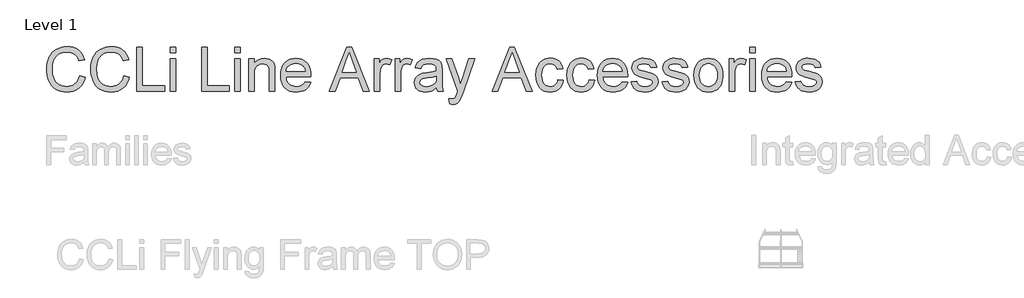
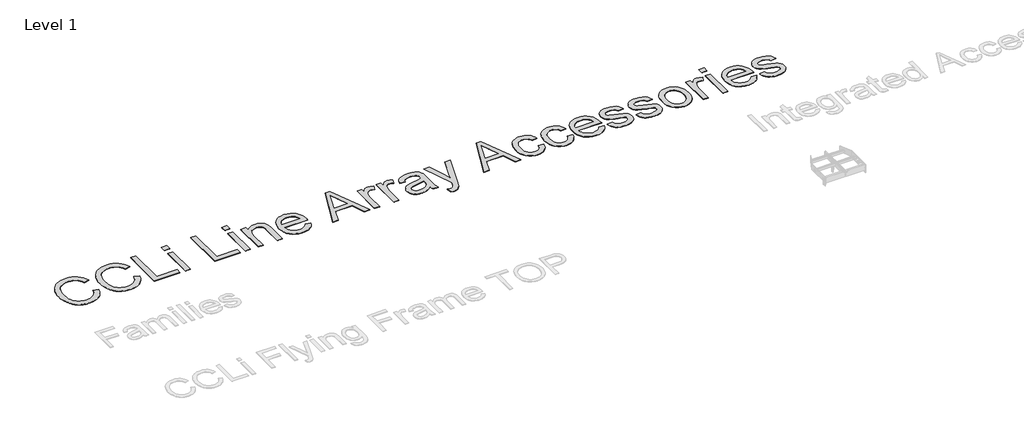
# One storey, part 13 of 31: 1 proxy.
"""IFC4 building model written with IfcOpenShell, lengths in millimetres."""

from ifc_helpers import new_model, si_unit, origin, origin_with_axes, place, context, project, spatial, polyline, outline, extrude, element, save

model = new_model("IFC4")

# Units and contexts
model_context = context("Model", 3, world=origin())
ifc_project = project(units=[si_unit("LENGTHUNIT", "METRE", prefix="MILLI")], contexts=[model_context])

# Site, building, storey
site = spatial("IfcSite", under=ifc_project)
building = spatial("IfcBuilding", under=site)
storey = spatial("IfcBuildingStorey", under=building, Name="Level 1", Elevation=0.0)

# Proxy
placement = place(None, origin())
element("IfcBuildingElementProxy", 1, Name="600mm Arial", ObjectType="600mm Arial", at=placement, inside=storey, context=model_context, shape_type="SweptSolid", body=[
    extrude(outline(polyline([(2002.9783305, -12457.1212893), (2078.3205631, -12476.5454586), (2063.4121452, -12523.3998292), (2043.5557146, -12564.3404968), (2018.751271, -12599.3674613), (1988.9988147, -12628.4807226), (1954.9697301, -12651.3675813), (1917.335402, -12667.7153374), (1876.0958304, -12677.5239911), (1831.2510151, -12680.7935424), (1785.3071525, -12678.3195359), (1743.8606472, -12670.8975167), (1706.9114993, -12658.5274846), (1674.4597088, -12641.2094397), (1646.0592188, -12619.2008993), (1621.2639723, -12592.7593809), (1600.0739694, -12561.8848845), (1582.48921, -12526.57741), (1568.6798396, -12488.3636677), (1558.8160036, -12448.770368), (1552.897702, -12407.7975108), (1550.9249348, -12365.4450961), (1553.1552194, -12320.0024726), (1559.8460732, -12277.5580874), (1570.9974962, -12238.1119405), (1586.6094884, -12201.6640318), (1606.3325618, -12168.8167682), (1629.8172287, -12140.1725563), (1657.063489, -12115.7313963), (1688.0713426, -12095.493288), (1721.7877275, -12079.6237785), (1757.1595813, -12068.2884145), (1794.1869041, -12061.4871961), (1832.8696959, -12059.2201233), (1875.9624731, -12062.1539822), (1915.4775979, -12070.955559), (1951.4150703, -12085.6248535), (1983.7748903, -12106.1618659), (2012.023629, -12132.0239702), (2035.6278576, -12162.6685404), (2054.5875759, -12198.0955765), (2068.902784, -12238.3050786), (1993.5605514, -12256.2577199), (1981.6963571, -12226.6294237), (1967.4409298, -12201.3145439), (1950.7942695, -12180.3130805), (1931.7563762, -12163.6250335), (1910.2168854, -12150.9101121), (1886.0654324, -12141.8280253), (1859.3020173, -12136.3787733), (1829.92664, -12134.5623559), (1796.1274817, -12136.5765098), (1765.216197, -12142.6189716), (1737.192786, -12152.6897412), (1712.0572487, -12166.7888187), (1690.1268833, -12184.2816076), (1671.7189879, -12204.5335114), (1656.8335627, -12227.5445302), (1645.4706076, -12253.314664), (1631.0680275, -12308.460175), (1626.2671674, -12365.2979433), (1631.9509443, -12434.9012168), (1639.0556653, -12466.1711864), (1649.0022747, -12495.0867112), (1661.951721, -12521.0729756), (1678.0649524, -12543.5551641), (1697.3419689, -12562.5332765), (1719.7827706, -12578.0073129), (1744.2975071, -12590.0140615), (1769.7963278, -12598.5903105), (1796.279233, -12603.7360599), (1823.7462224, -12605.4513097), (1856.5015156, -12603.1152591), (1886.6356495, -12596.1071071), (1914.1486242, -12584.4268537), (1939.0404397, -12568.074499), (1960.7224848, -12547.1236194), (1978.6061483, -12521.6477912), (1992.6914302, -12491.6470145), (2002.9783305, -12457.1212893)])), origin_with_axes(), (0.0, 0.0, 1.0), 5.0),
    extrude(outline(polyline([(2605.7161914, -12457.1212893), (2681.058424, -12476.5454586), (2666.1500061, -12523.3998292), (2646.2935755, -12564.3404968), (2621.4891319, -12599.3674613), (2591.7366756, -12628.4807226), (2557.707591, -12651.3675813), (2520.0732629, -12667.7153374), (2478.8336913, -12677.5239911), (2433.988876, -12680.7935424), (2388.0450134, -12678.3195359), (2346.5985081, -12670.8975167), (2309.6493602, -12658.5274846), (2277.1975697, -12641.2094397), (2248.7970797, -12619.2008993), (2224.0018332, -12592.7593809), (2202.8118303, -12561.8848845), (2185.2270709, -12526.57741), (2171.4177005, -12488.3636677), (2161.5538645, -12448.770368), (2155.6355629, -12407.7975108), (2153.6627957, -12365.4450961), (2155.8930803, -12320.0024726), (2162.5839341, -12277.5580874), (2173.7353571, -12238.1119405), (2189.3473492, -12201.6640318), (2209.0704227, -12168.8167682), (2232.5550896, -12140.1725563), (2259.8013499, -12115.7313963), (2290.8092035, -12095.493288), (2324.5255884, -12079.6237785), (2359.8974422, -12068.2884145), (2396.924765, -12061.4871961), (2435.6075568, -12059.2201233), (2478.700334, -12062.1539822), (2518.2154588, -12070.955559), (2554.1529312, -12085.6248535), (2586.5127512, -12106.1618659), (2614.7614899, -12132.0239702), (2638.3657185, -12162.6685404), (2657.3254368, -12198.0955765), (2671.6406449, -12238.3050786), (2596.2984123, -12256.2577199), (2584.434218, -12226.6294237), (2570.1787907, -12201.3145439), (2553.5321304, -12180.3130805), (2534.4942371, -12163.6250335), (2512.9547463, -12150.9101121), (2488.8032933, -12141.8280253), (2462.0398782, -12136.3787733), (2432.6645009, -12134.5623559), (2398.8653426, -12136.5765098), (2367.9540579, -12142.6189716), (2339.9306469, -12152.6897412), (2314.7951096, -12166.7888187), (2292.8647442, -12184.2816076), (2274.4568488, -12204.5335114), (2259.5714236, -12227.5445302), (2248.2084685, -12253.314664), (2233.8058884, -12308.460175), (2229.0050283, -12365.2979433), (2234.6888052, -12434.9012168), (2241.7935262, -12466.1711864), (2251.7401356, -12495.0867112), (2264.6895819, -12521.0729756), (2280.8028132, -12543.5551641), (2300.0798298, -12562.5332765), (2322.5206315, -12578.0073129), (2347.035368, -12590.0140615), (2372.5341887, -12598.5903105), (2399.0170939, -12603.7360599), (2426.4840833, -12605.4513097), (2459.2393765, -12603.1152591), (2489.3735104, -12596.1071071), (2516.8864851, -12584.4268537), (2541.7783006, -12568.074499), (2563.4603457, -12547.1236194), (2581.3440092, -12521.6477912), (2595.4292911, -12491.6470145), (2605.7161914, -12457.1212893)])), origin_with_axes(), (0.0, 0.0, 1.0), 5.0),
    extrude(outline(polyline([(2784.6539938, -12671.3757633), (2784.6539938, -12068.6379024), (2859.9962265, -12068.6379024), (2859.9962265, -12596.0335307), (3161.3651569, -12596.0335307), (3161.3651569, -12671.3757633), (2784.6539938, -12671.3757633)])), origin_with_axes(), (0.0, 0.0, 1.0), 5.0),
    extrude(outline(polyline([(3236.7073895, -12671.3757633), (3236.7073895, -12228.7401467), (3312.0496221, -12228.7401467), (3312.0496221, -12671.3757633), (3236.7073895, -12671.3757633)])), origin_with_axes(), (0.0, 0.0, 1.0), 5.0),
    extrude(outline(polyline([(3236.7073895, -12143.980135), (3236.7073895, -12068.6379024), (3312.0496221, -12068.6379024), (3312.0496221, -12143.980135), (3236.7073895, -12143.980135)])), origin_with_axes(), (0.0, 0.0, 1.0), 5.0),
    extrude(outline(polyline([(3669.925227, -12671.3757633), (3669.925227, -12068.6379024), (3745.2674596, -12068.6379024), (3745.2674596, -12596.0335307), (4046.6363901, -12596.0335307), (4046.6363901, -12671.3757633), (3669.925227, -12671.3757633)])), origin_with_axes(), (0.0, 0.0, 1.0), 5.0),
    extrude(outline(polyline([(4121.9786227, -12671.3757633), (4121.9786227, -12228.7401467), (4197.3208553, -12228.7401467), (4197.3208553, -12671.3757633), (4121.9786227, -12671.3757633)])), origin_with_axes(), (0.0, 0.0, 1.0), 5.0),
    extrude(outline(polyline([(4121.9786227, -12143.980135), (4121.9786227, -12068.6379024), (4197.3208553, -12068.6379024), (4197.3208553, -12143.980135), (4121.9786227, -12143.980135)])), origin_with_axes(), (0.0, 0.0, 1.0), 5.0),
    extrude(outline(polyline([(4310.3342042, -12671.3757633), (4310.3342042, -12228.7401467), (4385.6764369, -12228.7401467), (4385.6764369, -12290.5443219), (4411.8512408, -12259.3847169), (4443.2867573, -12237.1278562), (4479.9829863, -12223.7737398), (4521.9399279, -12219.3223676), (4559.0776153, -12222.9092171), (4593.0883057, -12233.6697654), (4621.4520076, -12250.2612434), (4641.6487291, -12271.3408817), (4655.3523334, -12296.8534981), (4664.2366836, -12326.7439102), (4668.2098091, -12399.5845452), (4668.2098091, -12671.3757633), (4592.8675765, -12671.3757633), (4592.8675765, -12409.7380883), (4590.6970728, -12370.779385), (4584.1855615, -12343.0778708), (4572.1742143, -12323.2306371), (4553.5042031, -12307.8347756), (4529.5734793, -12297.9571441), (4501.7799945, -12294.6646002), (4478.902333, -12296.5132072), (4457.6525492, -12302.0590283), (4438.0306433, -12311.3020635), (4420.0366152, -12324.2423126), (4405.0040372, -12342.3513038), (4394.2664814, -12367.1005651), (4387.823948, -12398.4900963), (4385.6764369, -12436.5198976), (4385.6764369, -12671.3757633), (4310.3342042, -12671.3757633)])), origin_with_axes(), (0.0, 0.0, 1.0), 5.0),
    extrude(outline(polyline([(5081.7091717, -12539.5268562), (5155.5798764, -12548.9446353), (5144.2537094, -12578.5315448), (5128.963614, -12604.6051812), (5109.7095901, -12627.1655445), (5086.4916377, -12646.2126348), (5059.54888, -12661.3417819), (5029.1204405, -12672.1483155), (4995.2063191, -12678.6322356), (4957.8065158, -12680.7935424), (4911.0579112, -12677.0641386), (4869.4044723, -12665.8759275), (4832.846199, -12647.2289088), (4801.3830914, -12621.1230827), (4776.0820072, -12588.2850161), (4758.0098042, -12549.441276), (4747.1664824, -12504.5918622), (4743.5520418, -12453.7367749), (4747.2032706, -12401.1572408), (4758.156957, -12354.8133064), (4776.413101, -12314.7049719), (4801.9717026, -12280.8322372), (4833.3520368, -12253.9216693), (4869.0733785, -12234.699835), (4909.1357278, -12223.1667345), (4953.5390846, -12219.3223676), (4996.5123002, -12223.1575374), (5035.3744344, -12234.6630468), (5070.1254874, -12253.8388958), (5100.7654591, -12280.6850844), (5125.7768362, -12314.4842427), (5143.6421056, -12354.5190008), (5154.3612673, -12400.7893588), (5157.9343211, -12453.2953165), (5157.4928627, -12473.6024027), (4818.8942744, -12473.6024027), (4823.2582745, -12503.6675587), (4831.9356911, -12529.9987125), (4844.9265241, -12552.5958641), (4862.2307734, -12571.4590134), (4882.891946, -12586.330643), (4905.9535485, -12596.9532357), (4931.4155811, -12603.3267912), (4959.2780437, -12605.4513097), (4999.3771812, -12601.5149724), (5033.1487484, -12589.7059604), (5060.5927452, -12569.2885096), (5081.7091717, -12539.5268562)]), holes=[polyline([(4818.8942744, -12398.2601701), (5082.5920885, -12398.2601701), (5072.4017572, -12358.4553382), (5063.6369687, -12342.8019593), (5052.4257649, -12329.9812718), (5031.8795555, -12314.530228), (5008.5006547, -12303.4937681), (4982.2890625, -12296.8718922), (4953.244779, -12294.6646002), (4926.7526768, -12296.4258353), (4902.4586696, -12301.7095404), (4880.3627572, -12310.5157157), (4860.4649398, -12322.8443611), (4843.7676958, -12338.1252594), (4831.2735035, -12355.7881937), (4822.982363, -12375.8331639), (4818.8942744, -12398.2601701)])]), origin_with_axes(), (0.0, 0.0, 1.0), 5.0),
    extrude(outline(polyline([(5408.0940778, -12671.3757633), (5648.6889027, -12068.6379024), (5712.8475227, -12068.6379024), (5953.2951947, -12671.3757633), (5873.6855309, -12671.3757633), (5804.8180214, -12483.0201818), (5556.4240983, -12483.0201818), (5487.5565888, -12671.3757633), (5408.0940778, -12671.3757633)]), holes=[polyline([(5584.0888243, -12407.6779491), (5777.3004482, -12407.6779491), (5722.8539129, -12259.4950815), (5680.6210599, -12143.980135), (5643.0970964, -12246.5456353), (5584.0888243, -12407.6779491)])]), origin_with_axes(), (0.0, 0.0, 1.0), 5.0),
    extrude(outline(polyline([(6024.3699962, -12671.3757633), (6024.3699962, -12228.7401467), (6090.2944497, -12228.7401467), (6090.2944497, -12294.2231418), (6114.6482378, -12256.2577199), (6137.0890395, -12233.8904946), (6159.6034176, -12222.9643994), (6184.1779349, -12219.3223676), (6221.7018984, -12225.1349031), (6259.8144731, -12242.5725097), (6234.6513446, -12310.115644), (6208.163841, -12298.5273612), (6181.6763373, -12294.6646002), (6159.1803533, -12298.3802084), (6139.0756023, -12309.5270328), (6122.8336122, -12327.258945), (6111.925911, -12350.7298163), (6102.7656493, -12392.8155165), (6099.7122288, -12438.7271895), (6099.7122288, -12671.3757633), (6024.3699962, -12671.3757633)])), origin_with_axes(), (0.0, 0.0, 1.0), 5.0),
    extrude(outline(polyline([(6306.9033685, -12671.3757633), (6306.9033685, -12228.7401467), (6372.827822, -12228.7401467), (6372.827822, -12294.2231418), (6397.1816101, -12256.2577199), (6419.6224118, -12233.8904946), (6442.1367899, -12222.9643994), (6466.7113072, -12219.3223676), (6504.2352707, -12225.1349031), (6542.3478454, -12242.5725097), (6517.1847169, -12310.115644), (6490.6972133, -12298.5273612), (6464.2097096, -12294.6646002), (6441.7137256, -12298.3802084), (6421.6089746, -12309.5270328), (6405.3669845, -12327.258945), (6394.4592833, -12350.7298163), (6385.2990216, -12392.8155165), (6382.2456011, -12438.7271895), (6382.2456011, -12671.3757633), (6306.9033685, -12671.3757633)])), origin_with_axes(), (0.0, 0.0, 1.0), 5.0),
    extrude(outline(polyline([(6871.9701131, -12614.8690888), (6835.9728598, -12645.7343882), (6798.9087488, -12665.9311098), (6759.9316514, -12677.0779342), (6718.1954391, -12680.7935424), (6684.6491996, -12678.5586592), (6655.2324356, -12671.8540099), (6629.945147, -12660.6795943), (6608.7873337, -12645.0354124), (6592.0808926, -12625.9147457), (6580.1477204, -12604.3108756), (6572.9878171, -12580.2238019), (6570.6011826, -12553.6535248), (6574.2064262, -12522.4203434), (6585.0221568, -12494.0566416), (6601.7056053, -12469.7764299), (6622.9140023, -12450.793719), (6647.8380075, -12436.4463212), (6675.6682804, -12426.0720489), (6740.85697, -12414.7412834), (6817.8914598, -12402.8219068), (6871.5286547, -12388.842391), (6871.9701131, -12372.066972), (6866.7829769, -12338.4425576), (6860.2990568, -12325.9897521), (6851.2215685, -12316.4432143), (6835.5314014, -12306.9150707), (6816.4199318, -12300.1092538), (6767.9330848, -12294.6646002), (6723.0514814, -12298.2882379), (6691.7079354, -12309.1591508), (6670.3339915, -12329.2639019), (6655.3611943, -12360.5890538), (6580.0189617, -12351.1712747), (6593.0971666, -12309.9684912), (6612.6133065, -12277.5948756), (6640.3883971, -12252.8364174), (6678.2434544, -12234.4791058), (6724.5414035, -12223.1115522), (6777.6451695, -12219.3223676), (6828.5784317, -12222.6700938), (6868.9534807, -12232.7132722), (6899.3957158, -12247.8148281), (6920.5305364, -12266.3376866), (6934.5468404, -12289.2383408), (6943.6335257, -12317.4732839), (6947.3123457, -12383.3977375), (6947.3123457, -12477.1340698), (6951.1383184, -12608.0264837), (6956.8037011, -12640.3817052), (6966.1479038, -12671.3757633), (6890.8056712, -12671.3757633), (6878.7391418, -12645.1825652), (6871.9701131, -12614.8690888)]), holes=[polyline([(6871.9701131, -12464.1846236), (6821.3495505, -12476.7293996), (6750.4219018, -12487.2876129), (6685.6010943, -12499.5012951), (6668.7337048, -12507.8522164), (6656.2441111, -12519.3669229), (6648.5185892, -12533.1624977), (6645.9434152, -12548.3560241), (6651.5536156, -12570.7600376), (6668.3842169, -12589.1173492), (6696.0673371, -12601.3678196), (6734.2350941, -12605.4513097), (6774.7021135, -12600.9447553), (6810.4602435, -12587.425092), (6839.4493447, -12567.5042819), (6859.609278, -12543.7942874), (6868.5488105, -12519.3669229), (6871.5286547, -12485.5217793), (6871.9701131, -12464.1846236)])]), origin_with_axes(), (0.0, 0.0, 1.0), 5.0),
    extrude(outline(polyline([(7050.9079155, -12840.8957867), (7041.4901364, -12768.3494572), (7079.7498639, -12774.9713331), (7099.8730091, -12772.8927999), (7115.5079939, -12766.6572), (7127.6848879, -12756.7059921), (7137.4337608, -12743.4806343), (7158.0351525, -12688.0040295), (7163.9212644, -12669.7570825), (7003.8190201, -12228.7401467), (7083.1343783, -12228.7401467), (7168.1886956, -12474.6324723), (7197.766408, -12572.9305414), (7227.3441204, -12485.9632377), (7314.6057297, -12228.7401467), (7393.3324766, -12228.7401467), (7239.263497, -12681.9707647), (7199.237936, -12780.2688339), (7178.7469088, -12811.649168), (7155.5335549, -12833.390994), (7128.6045929, -12846.0829228), (7096.9667413, -12850.3135657), (7075.0777626, -12847.959121), (7050.9079155, -12840.8957867)])), origin_with_axes(), (0.0, 0.0, 1.0), 5.0),
    extrude(outline(polyline([(7630.6899399, -12671.3757633), (7871.2847648, -12068.6379024), (7935.4433847, -12068.6379024), (8175.8910568, -12671.3757633), (8096.281393, -12671.3757633), (8027.4138835, -12483.0201818), (7779.0199604, -12483.0201818), (7710.1524509, -12671.3757633), (7630.6899399, -12671.3757633)]), holes=[polyline([(7806.6846864, -12407.6779491), (7999.8963103, -12407.6779491), (7945.449775, -12259.4950815), (7903.2169219, -12143.980135), (7865.6929584, -12246.5456353), (7806.6846864, -12407.6779491)])]), origin_with_axes(), (0.0, 0.0, 1.0), 5.0),
    extrude(outline(polyline([(8529.4992305, -12511.273519), (8604.8414631, -12520.6912981), (8596.6468917, -12556.2424944), (8583.8354012, -12587.7010035), (8566.4069917, -12615.0668254), (8544.3616631, -12638.3399601), (8518.6283176, -12656.9134023), (8490.135857, -12670.1801468), (8458.8842816, -12678.1401935), (8424.8735911, -12680.7935424), (8382.6177454, -12677.0917298), (8344.7304984, -12665.9862921), (8311.2118502, -12647.4772292), (8282.0618006, -12621.5645411), (8258.4667691, -12588.7356716), (8241.6131752, -12549.4780642), (8231.5010189, -12503.7917189), (8228.1303001, -12451.6766358), (8233.8876533, -12384.6301421), (8241.0843448, -12354.45922), (8251.159713, -12326.523181), (8264.1827356, -12301.3830452), (8280.2223906, -12279.5998325), (8299.2786779, -12261.1735431), (8321.3515977, -12246.1041769), (8345.4432698, -12234.3871353), (8370.5558145, -12226.0178199), (8396.6892317, -12220.9962307), (8423.8435215, -12219.3223676), (8457.2701993, -12221.6216301), (8487.5055008, -12228.5194175), (8514.5494259, -12240.0157298), (8538.4019748, -12256.1105671), (8558.6584772, -12276.4360474), (8574.9142628, -12300.6242885), (8587.1693318, -12328.6752907), (8595.4236841, -12360.5890538), (8520.0814514, -12370.0068328), (8506.4146353, -12337.1365766), (8485.1326619, -12313.5737348), (8457.4127536, -12299.3918839), (8424.4321327, -12294.6646002), (8398.8321444, -12296.9914538), (8375.7429506, -12303.9720147), (8355.1645515, -12315.6062828), (8337.096947, -12331.8942581), (8322.3862658, -12353.2130198), (8311.8786363, -12379.9396467), (8305.5740586, -12412.074139), (8303.4725327, -12449.6164966), (8305.5280733, -12487.7244728), (8311.6946953, -12520.2314456), (8321.9723985, -12547.137415), (8336.3611831, -12568.442381), (8354.0701026, -12584.6337873), (8374.3082109, -12596.1990776), (8397.0755078, -12603.1382517), (8422.3719935, -12605.4513097), (8461.3858791, -12599.6755624), (8478.2578671, -12592.4558783), (8493.3732186, -12582.3483205), (8506.3088693, -12569.2425244), (8516.6417548, -12553.0281254), (8524.3718752, -12533.7051236), (8529.4992305, -12511.273519)])), origin_with_axes(), (0.0, 0.0, 1.0), 5.0),
    extrude(outline(polyline([(8953.299289, -12511.273519), (9028.6415216, -12520.6912981), (9020.4469501, -12556.2424944), (9007.6354597, -12587.7010035), (8990.2070501, -12615.0668254), (8968.1617216, -12638.3399601), (8942.428376, -12656.9134023), (8913.9359155, -12670.1801468), (8882.68434, -12678.1401935), (8848.6736495, -12680.7935424), (8806.4178039, -12677.0917298), (8768.5305569, -12665.9862921), (8735.0119086, -12647.4772292), (8705.861859, -12621.5645411), (8682.2668275, -12588.7356716), (8665.4132336, -12549.4780642), (8655.3010773, -12503.7917189), (8651.9303585, -12451.6766358), (8657.6877117, -12384.6301421), (8664.8844033, -12354.45922), (8674.9597714, -12326.523181), (8687.982794, -12301.3830452), (8704.022449, -12279.5998325), (8723.0787364, -12261.1735431), (8745.1516561, -12246.1041769), (8769.2433283, -12234.3871353), (8794.355873, -12226.0178199), (8820.4892902, -12220.9962307), (8847.64358, -12219.3223676), (8881.0702577, -12221.6216301), (8911.3055592, -12228.5194175), (8938.3494844, -12240.0157298), (8962.2020333, -12256.1105671), (8982.4585356, -12276.4360474), (8998.7143213, -12300.6242885), (9010.9693902, -12328.6752907), (9019.2237425, -12360.5890538), (8943.8815099, -12370.0068328), (8930.2146938, -12337.1365766), (8908.9327203, -12313.5737348), (8881.212812, -12299.3918839), (8848.2321911, -12294.6646002), (8822.6322028, -12296.9914538), (8799.5430091, -12303.9720147), (8778.96461, -12315.6062828), (8760.8970055, -12331.8942581), (8746.1863242, -12353.2130198), (8735.6786947, -12379.9396467), (8729.374117, -12412.074139), (8727.2725911, -12449.6164966), (8729.3281318, -12487.7244728), (8735.4947537, -12520.2314456), (8745.772457, -12547.137415), (8760.1612415, -12568.442381), (8777.870161, -12584.6337873), (8798.1082693, -12596.1990776), (8820.8755663, -12603.1382517), (8846.172052, -12605.4513097), (8885.1859376, -12599.6755624), (8902.0579256, -12592.4558783), (8917.173277, -12582.3483205), (8930.1089277, -12569.2425244), (8940.4418132, -12553.0281254), (8948.1719337, -12533.7051236), (8953.299289, -12511.273519)])), origin_with_axes(), (0.0, 0.0, 1.0), 5.0),
    extrude(outline(polyline([(9404.4697679, -12539.5268562), (9478.3404725, -12548.9446353), (9467.0143056, -12578.5315448), (9451.7242101, -12604.6051812), (9432.4701862, -12627.1655445), (9409.2522338, -12646.2126348), (9382.3094762, -12661.3417819), (9351.8810366, -12672.1483155), (9317.9669152, -12678.6322356), (9280.5671119, -12680.7935424), (9233.8185073, -12677.0641386), (9192.1650684, -12665.8759275), (9155.6067952, -12647.2289088), (9124.1436875, -12621.1230827), (9098.8426033, -12588.2850161), (9080.7704003, -12549.441276), (9069.9270785, -12504.5918622), (9066.3126379, -12453.7367749), (9069.9638667, -12401.1572408), (9080.9175531, -12354.8133064), (9099.1736971, -12314.7049719), (9124.7322987, -12280.8322372), (9156.1126329, -12253.9216693), (9191.8339746, -12234.699835), (9231.8963239, -12223.1667345), (9276.2996807, -12219.3223676), (9319.2728963, -12223.1575374), (9358.1350306, -12234.6630468), (9392.8860835, -12253.8388958), (9423.5260552, -12280.6850844), (9448.5374324, -12314.4842427), (9466.4027017, -12354.5190008), (9477.1218634, -12400.7893588), (9480.6949173, -12453.2953165), (9480.2534589, -12473.6024027), (9141.6548705, -12473.6024027), (9146.0188707, -12503.6675587), (9154.6962872, -12529.9987125), (9167.6871202, -12552.5958641), (9184.9913695, -12571.4590134), (9205.6525421, -12586.330643), (9228.7141447, -12596.9532357), (9254.1761772, -12603.3267912), (9282.0386399, -12605.4513097), (9322.1377773, -12601.5149724), (9355.9093445, -12589.7059604), (9383.3533413, -12569.2885096), (9404.4697679, -12539.5268562)]), holes=[polyline([(9141.6548705, -12398.2601701), (9405.3526846, -12398.2601701), (9395.1623534, -12358.4553382), (9386.3975648, -12342.8019593), (9375.186361, -12329.9812718), (9354.6401516, -12314.530228), (9331.2612508, -12303.4937681), (9305.0496587, -12296.8718922), (9276.0053751, -12294.6646002), (9249.513273, -12296.4258353), (9225.2192657, -12301.7095404), (9203.1233534, -12310.5157157), (9183.225536, -12322.8443611), (9166.5282919, -12338.1252594), (9154.0340996, -12355.7881937), (9145.7429592, -12375.8331639), (9141.6548705, -12398.2601701)])]), origin_with_axes(), (0.0, 0.0, 1.0), 5.0),
    extrude(outline(polyline([(9527.7838126, -12539.5268562), (9603.1260452, -12530.1090771), (9607.6785849, -12547.2891663), (9615.0086337, -12562.3355399), (9625.1161915, -12575.2481979), (9638.0012584, -12586.0271404), (9653.7006225, -12594.5252145), (9672.2510721, -12600.5952674), (9717.9052277, -12605.4513097), (9763.0075604, -12600.9999376), (9780.5371374, -12595.4357224), (9794.7189883, -12587.6458212), (9813.4809701, -12568.2952282), (9818.1714655, -12557.4611035), (9819.734964, -12545.8544265), (9818.1622685, -12535.6824894), (9813.4441819, -12526.6509864), (9794.5718355, -12512.009283), (9766.3552865, -12502.4443511), (9717.022311, -12490.5249745), (9648.2651661, -12470.6409526), (9603.5675036, -12453.6631985), (9574.8543139, -12435.1403401), (9554.0505871, -12410.6210051), (9541.4138406, -12381.6686921), (9537.2015917, -12349.8468995), (9540.5861061, -12320.6554632), (9550.7396491, -12293.708107), (9566.7425159, -12270.0716888), (9587.6750015, -12250.8130664), (9608.4787283, -12238.6913547), (9635.5732372, -12228.5194175), (9666.8983891, -12221.6216301), (9700.3940448, -12219.3223676), (9749.4327147, -12223.0195817), (9792.070238, -12234.1112238), (9826.3568399, -12251.5120422), (9850.342746, -12274.1367849), (9866.2352482, -12303.659315), (9876.2416385, -12341.7534956), (9800.8994059, -12351.1712747), (9791.3896563, -12327.4612801), (9772.5724922, -12309.6006092), (9744.2639727, -12298.3986025), (9706.2801567, -12294.6646002), (9663.0172341, -12298.2330556), (9634.1752856, -12308.9384216), (9617.9516897, -12324.3894654), (9612.5438243, -12342.194954), (9614.7879045, -12353.7832368), (9621.520145, -12364.1207209), (9633.0348515, -12373.354559), (9649.6263294, -12380.7489871), (9714.5207134, -12396.7886421), (9825.1060411, -12432.2524664), (9854.3158716, -12449.2118264), (9876.4623677, -12472.4251803), (9890.4234894, -12501.9661045), (9895.0771966, -12537.9081754), (9889.614149, -12575.0642569), (9873.2250061, -12610.0130465), (9846.5351674, -12640.0138232), (9810.1700321, -12662.3258662), (9766.2449219, -12676.1766233), (9716.8751582, -12680.7935424), (9676.3253652, -12678.5678563), (9640.9075262, -12671.8907981), (9610.6216409, -12660.7623677), (9585.4677095, -12645.1825652), (9564.9215, -12625.224967), (9548.4587808, -12600.9631494), (9536.0795516, -12572.3971125), (9527.7838126, -12539.5268562)])), origin_with_axes(), (0.0, 0.0, 1.0), 5.0),
    extrude(outline(polyline([(9951.5838711, -12539.5268562), (10026.9261037, -12530.1090771), (10031.4786434, -12547.2891663), (10038.8086921, -12562.3355399), (10048.91625, -12575.2481979), (10061.8013168, -12586.0271404), (10077.500681, -12594.5252145), (10096.0511306, -12600.5952674), (10141.7052862, -12605.4513097), (10186.8076188, -12600.9999376), (10204.3371959, -12595.4357224), (10218.5190468, -12587.6458212), (10237.2810285, -12568.2952282), (10241.971524, -12557.4611035), (10243.5350225, -12545.8544265), (10241.9623269, -12535.6824894), (10237.2442403, -12526.6509864), (10218.371894, -12512.009283), (10190.155345, -12502.4443511), (10140.8223694, -12490.5249745), (10072.0652245, -12470.6409526), (10027.3675621, -12453.6631985), (9998.6543724, -12435.1403401), (9977.8506455, -12410.6210051), (9965.213899, -12381.6686921), (9961.0016502, -12349.8468995), (9964.3861645, -12320.6554632), (9974.5397076, -12293.708107), (9990.5425744, -12270.0716888), (10011.4750599, -12250.8130664), (10032.2787867, -12238.6913547), (10059.3732957, -12228.5194175), (10090.6984476, -12221.6216301), (10124.1941032, -12219.3223676), (10173.2327732, -12223.0195817), (10215.8702964, -12234.1112238), (10250.1568984, -12251.5120422), (10274.1428045, -12274.1367849), (10290.0353066, -12303.659315), (10300.0416969, -12341.7534956), (10224.6994643, -12351.1712747), (10215.1897147, -12327.4612801), (10196.3725507, -12309.6006092), (10168.0640311, -12298.3986025), (10130.0802151, -12294.6646002), (10086.8172925, -12298.2330556), (10057.9753441, -12308.9384216), (10041.7517481, -12324.3894654), (10036.3438828, -12342.194954), (10038.5879629, -12353.7832368), (10045.3202035, -12364.1207209), (10056.8349099, -12373.354559), (10073.4263879, -12380.7489871), (10138.3207718, -12396.7886421), (10248.9060996, -12432.2524664), (10278.11593, -12449.2118264), (10300.2624261, -12472.4251803), (10314.2235478, -12501.9661045), (10318.8772551, -12537.9081754), (10313.4142074, -12575.0642569), (10297.0250646, -12610.0130465), (10270.3352258, -12640.0138232), (10233.9700906, -12662.3258662), (10190.0449804, -12676.1766233), (10140.6752166, -12680.7935424), (10100.1254237, -12678.5678563), (10064.7075846, -12671.8907981), (10034.4216993, -12660.7623677), (10009.2677679, -12645.1825652), (9988.7215585, -12625.224967), (9972.2588392, -12600.9631494), (9959.8796101, -12572.3971125), (9951.5838711, -12539.5268562)])), origin_with_axes(), (0.0, 0.0, 1.0), 5.0),
    extrude(outline(polyline([(10384.8017086, -12450.057955), (10388.8760017, -12392.7327431), (10401.098881, -12343.3353882), (10421.4703465, -12301.8658903), (10449.9903981, -12268.3242494), (10478.7035879, -12246.8859261), (10510.3966218, -12231.572838), (10545.0694998, -12222.3849852), (10582.722222, -12219.3223676), (10624.2882889, -12223.0517713), (10661.8720333, -12234.2399825), (10695.473455, -12252.8870011), (10725.0925541, -12278.9928272), (10749.2669997, -12311.674544), (10766.5344609, -12350.0492346), (10776.8949376, -12394.1168991), (10780.3484298, -12443.8775375), (10778.8217195, -12484.2066012), (10774.2415887, -12519.9923223), (10766.6080373, -12551.2347007), (10755.9210653, -12577.9337365), (10742.31403, -12600.9953391), (10725.9202886, -12621.3254178), (10706.7398411, -12638.9239728), (10684.7726875, -12653.7910039), (10660.8741534, -12665.6046145), (10635.8995644, -12674.0429077), (10609.8489206, -12679.1058837), (10582.722222, -12680.7935424), (10540.5491498, -12677.0779342), (10502.6159176, -12665.9311098), (10468.9225253, -12647.353069), (10439.4689731, -12621.3438119), (10415.5520449, -12588.344797), (10398.4685247, -12548.7974825), (10388.2184126, -12502.7018685), (10384.8017086, -12450.057955)]), holes=[polyline([(10460.1439412, -12449.9108022), (10462.323642, -12486.4552799), (10468.8627445, -12518.09773), (10479.7612486, -12544.8381525), (10495.0191544, -12566.6765475), (10513.578801, -12583.640506), (10534.3825278, -12595.7576192), (10557.4303348, -12603.0278871), (10582.722222, -12605.4513097), (10607.8853505, -12603.0140915), (10630.841187, -12595.7024369), (10651.5897315, -12583.5163458), (10670.1309841, -12566.4558183), (10685.3888898, -12544.4012926), (10696.2873939, -12517.2332073), (10702.8264964, -12484.9515622), (10705.0061972, -12447.5563574), (10702.8127008, -12412.170708), (10696.2322116, -12381.3559924), (10685.2647296, -12355.1122106), (10669.9102549, -12333.4393625), (10651.3000244, -12316.475404), (10630.5652755, -12304.3582908), (10607.706008, -12297.0880229), (10582.722222, -12294.6646002), (10557.4303348, -12297.0788258), (10534.3825278, -12304.3215026), (10513.578801, -12316.3926306), (10495.0191544, -12333.2922097), (10479.7612486, -12355.0662253), (10468.8627445, -12381.7606626), (10462.323642, -12413.3755215), (10460.1439412, -12449.9108022)])]), origin_with_axes(), (0.0, 0.0, 1.0), 5.0),
    extrude(outline(polyline([(10865.1084415, -12671.3757633), (10865.1084415, -12228.7401467), (10931.032895, -12228.7401467), (10931.032895, -12294.2231418), (10955.3866831, -12256.2577199), (10977.8274848, -12233.8904946), (11000.3418629, -12222.9643994), (11024.9163802, -12219.3223676), (11062.4403437, -12225.1349031), (11100.5529184, -12242.5725097), (11075.3897899, -12310.115644), (11048.9022863, -12298.5273612), (11022.4147826, -12294.6646002), (10999.9187986, -12298.3802084), (10979.8140476, -12309.5270328), (10963.5720575, -12327.258945), (10952.6643564, -12350.7298163), (10943.5040947, -12392.8155165), (10940.4506741, -12438.7271895), (10940.4506741, -12671.3757633), (10865.1084415, -12671.3757633)])), origin_with_axes(), (0.0, 0.0, 1.0), 5.0),
    extrude(outline(polyline([(11147.6418138, -12671.3757633), (11147.6418138, -12228.7401467), (11222.9840464, -12228.7401467), (11222.9840464, -12671.3757633), (11147.6418138, -12671.3757633)])), origin_with_axes(), (0.0, 0.0, 1.0), 5.0),
    extrude(outline(polyline([(11147.6418138, -12143.980135), (11147.6418138, -12068.6379024), (11222.9840464, -12068.6379024), (11222.9840464, -12143.980135), (11147.6418138, -12143.980135)])), origin_with_axes(), (0.0, 0.0, 1.0), 5.0),
    extrude(outline(polyline([(11645.9011881, -12539.5268562), (11719.7718927, -12548.9446353), (11708.4457258, -12578.5315448), (11693.1556303, -12604.6051812), (11673.9016064, -12627.1655445), (11650.683654, -12646.2126348), (11623.7408964, -12661.3417819), (11593.3124569, -12672.1483155), (11559.3983354, -12678.6322356), (11521.9985321, -12680.7935424), (11475.2499276, -12677.0641386), (11433.5964886, -12665.8759275), (11397.0382154, -12647.2289088), (11365.5751077, -12621.1230827), (11340.2740235, -12588.2850161), (11322.2018205, -12549.441276), (11311.3584987, -12504.5918622), (11307.7440581, -12453.7367749), (11311.3952869, -12401.1572408), (11322.3489733, -12354.8133064), (11340.6051173, -12314.7049719), (11366.1637189, -12280.8322372), (11397.5440531, -12253.9216693), (11433.2653949, -12234.699835), (11473.3277441, -12223.1667345), (11517.7311009, -12219.3223676), (11560.7043165, -12223.1575374), (11599.5664508, -12234.6630468), (11634.3175037, -12253.8388958), (11664.9574754, -12280.6850844), (11689.9688526, -12314.4842427), (11707.834122, -12354.5190008), (11718.5532836, -12400.7893588), (11722.1263375, -12453.2953165), (11721.6848791, -12473.6024027), (11383.0862907, -12473.6024027), (11387.4502909, -12503.6675587), (11396.1277074, -12529.9987125), (11409.1185404, -12552.5958641), (11426.4227897, -12571.4590134), (11447.0839623, -12586.330643), (11470.1455649, -12596.9532357), (11495.6075975, -12603.3267912), (11523.4700601, -12605.4513097), (11563.5691975, -12601.5149724), (11597.3407647, -12589.7059604), (11624.7847615, -12569.2885096), (11645.9011881, -12539.5268562)]), holes=[polyline([(11383.0862907, -12398.2601701), (11646.7841049, -12398.2601701), (11636.5937736, -12358.4553382), (11627.8289851, -12342.8019593), (11616.6177813, -12329.9812718), (11596.0715718, -12314.530228), (11572.692671, -12303.4937681), (11546.4810789, -12296.8718922), (11517.4367954, -12294.6646002), (11490.9446932, -12296.4258353), (11466.6506859, -12301.7095404), (11444.5547736, -12310.5157157), (11424.6569562, -12322.8443611), (11407.9597121, -12338.1252594), (11395.4655198, -12355.7881937), (11387.1743794, -12375.8331639), (11383.0862907, -12398.2601701)])]), origin_with_axes(), (0.0, 0.0, 1.0), 5.0),
    extrude(outline(polyline([(11769.2152328, -12539.5268562), (11844.5574655, -12530.1090771), (11849.1100052, -12547.2891663), (11856.4400539, -12562.3355399), (11866.5476117, -12575.2481979), (11879.4326786, -12586.0271404), (11895.1320427, -12594.5252145), (11913.6824924, -12600.5952674), (11959.336648, -12605.4513097), (12004.4389806, -12600.9999376), (12021.9685576, -12595.4357224), (12036.1504085, -12587.6458212), (12054.9123903, -12568.2952282), (12059.6028857, -12557.4611035), (12061.1663842, -12545.8544265), (12059.5936887, -12535.6824894), (12054.8756021, -12526.6509864), (12036.0032558, -12512.009283), (12007.7867067, -12502.4443511), (11958.4537312, -12490.5249745), (11889.6965863, -12470.6409526), (11844.9989239, -12453.6631985), (11816.2857341, -12435.1403401), (11795.4820073, -12410.6210051), (11782.8452608, -12381.6686921), (11778.6330119, -12349.8468995), (11782.0175263, -12320.6554632), (11792.1710693, -12293.708107), (11808.1739361, -12270.0716888), (11829.1064217, -12250.8130664), (11849.9101485, -12238.6913547), (11877.0046574, -12228.5194175), (11908.3298093, -12221.6216301), (11941.825465, -12219.3223676), (11990.8641349, -12223.0195817), (12033.5016582, -12234.1112238), (12067.7882601, -12251.5120422), (12091.7741662, -12274.1367849), (12107.6666684, -12303.659315), (12117.6730587, -12341.7534956), (12042.3308261, -12351.1712747), (12032.8210765, -12327.4612801), (12014.0039124, -12309.6006092), (11985.6953929, -12298.3986025), (11947.7115769, -12294.6646002), (11904.4486543, -12298.2330556), (11875.6067059, -12308.9384216), (11859.3831099, -12324.3894654), (11853.9752445, -12342.194954), (11856.2193247, -12353.7832368), (11862.9515652, -12364.1207209), (11874.4662717, -12373.354559), (11891.0577497, -12380.7489871), (11955.9521336, -12396.7886421), (12066.5374614, -12432.2524664), (12095.7472918, -12449.2118264), (12117.8937879, -12472.4251803), (12131.8549096, -12501.9661045), (12136.5086168, -12537.9081754), (12131.0455692, -12575.0642569), (12114.6564263, -12610.0130465), (12087.9665876, -12640.0138232), (12051.6014523, -12662.3258662), (12007.6763421, -12676.1766233), (11958.3065784, -12680.7935424), (11917.7567855, -12678.5678563), (11882.3389464, -12671.8907981), (11852.0530611, -12660.7623677), (11826.8991297, -12645.1825652), (11806.3529203, -12625.224967), (11789.890201, -12600.9631494), (11777.5109718, -12572.3971125), (11769.2152328, -12539.5268562)])), origin_with_axes(), (0.0, 0.0, 1.0), 5.0),
])

save(model, "model.ifc")
